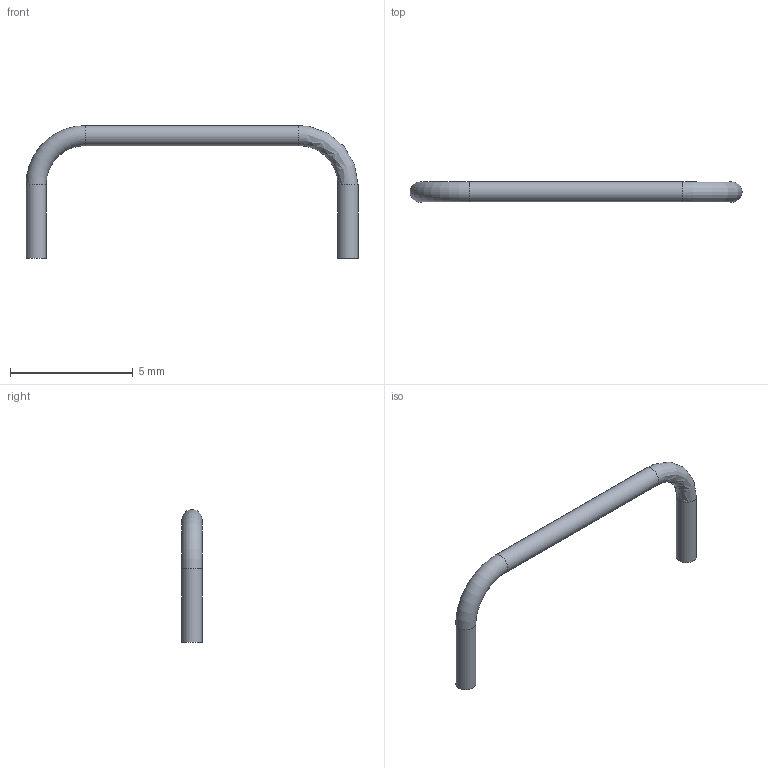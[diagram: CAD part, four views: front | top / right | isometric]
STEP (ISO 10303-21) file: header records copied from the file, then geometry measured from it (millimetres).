
FILE_DESCRIPTION(('FreeCAD Model'),'2;1');
FILE_NAME('Schematics/CV.3dshapes/Jumper_12.7mm.stp','2020-09-09T15:46:16',('Author'),(''), 'Open CASCADE STEP processor 7.3','FreeCAD','Unknown');
FILE_SCHEMA(('AUTOMOTIVE_DESIGN { 1 0 10303 214 1 1 1 1 }'));
Length unit declared in the file: millimetre
Products named in the file (1): AdditivePipe
Bounding box: 13.52 x 0.82 x 5.41 mm (x, y, z)
Volume: 11 mm3; surface area: 55 mm2
Topology: 1 solids, 1 shells, 7 faces, 11 edges, 6 vertices
Faces by surface type: plane 2, cylinder 2, extrusion 1, revolution 1, torus 1
Full cylindrical faces by diameter (mm): 0.818 x2
Entity records: 362 total; most frequent: CARTESIAN_POINT 58, DIRECTION 49, ORIENTED_EDGE 22, PCURVE 22, DEFINITIONAL_REPRESENTATION 22, AXIS2_PLACEMENT_3D 16, VECTOR 14, LINE 13
